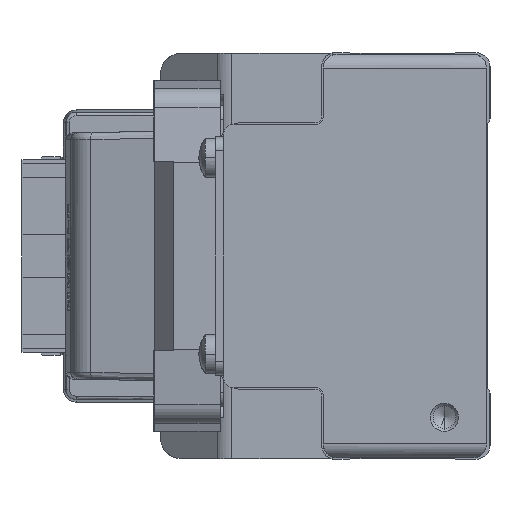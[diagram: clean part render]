
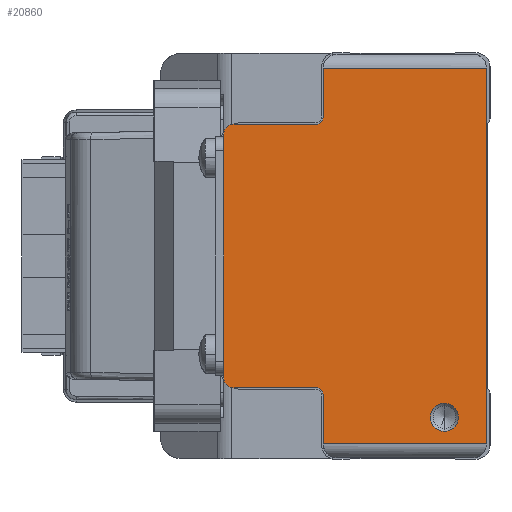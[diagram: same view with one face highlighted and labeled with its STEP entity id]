
A CAD part, left-side view. The second image highlights one B-rep face of the part: STEP entity #20860.
In plain terms, the highlighted planar face has unit normal (-1, 0, 0) as drawn and (0, 0, 1) by its records, which use the part's own axes.
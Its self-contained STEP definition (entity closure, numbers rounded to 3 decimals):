
#242 = VERTEX_POINT ( 'NONE', #5069 ) ;
#642 = EDGE_CURVE ( 'NONE', #13130, #12988, #30602, .T. ) ;
#892 = VERTEX_POINT ( 'NONE', #5077 ) ;
#1685 = DIRECTION ( 'NONE',  ( 0., 0., -1. ) ) ;
#1985 = EDGE_LOOP ( 'NONE', ( #23674, #10743, #21364, #22356, #5558, #32337, #20937, #28931, #14539, #26248, #36778, #41655 ) ) ;
#3001 = CARTESIAN_POINT ( 'NONE',  ( -21., 6.5, 470. ) ) ;
#4095 = VERTEX_POINT ( 'NONE', #27169 ) ;
#4887 = CARTESIAN_POINT ( 'NONE',  ( -17.3, 38., 470. ) ) ;
#5056 = CARTESIAN_POINT ( 'NONE',  ( -23., 6.5, 470. ) ) ;
#5069 = CARTESIAN_POINT ( 'NONE',  ( 26.8, 0.5, 470. ) ) ;
#5077 = CARTESIAN_POINT ( 'NONE',  ( -25., 6.5, 470. ) ) ;
#5104 = DIRECTION ( 'NONE',  ( 0., 0., 1. ) ) ;
#5558 = ORIENTED_EDGE ( 'NONE', *, *, #19044, .T. ) ;
#5664 = LINE ( 'NONE', #40193, #39914 ) ;
#6182 = EDGE_CURVE ( 'NONE', #17685, #19506, #16292, .T. ) ;
#6526 = EDGE_CURVE ( 'NONE', #19506, #43246, #32898, .T. ) ;
#6538 = VERTEX_POINT ( 'NONE', #23362 ) ;
#6577 = DIRECTION ( 'NONE',  ( 0., -1., 0. ) ) ;
#7229 = DIRECTION ( 'NONE',  ( 1., 0., 0. ) ) ;
#7243 = CIRCLE ( 'NONE', #41188, 1. ) ;
#8796 = DIRECTION ( 'NONE',  ( -1., 0., 0. ) ) ;
#8808 = CARTESIAN_POINT ( 'NONE',  ( -18.8, 36.5, 470. ) ) ;
#8852 = CARTESIAN_POINT ( 'NONE',  ( -17.3, 36.5, 470. ) ) ;
#8956 = ORIENTED_EDGE ( 'NONE', *, *, #21515, .T. ) ;
#9015 = LINE ( 'NONE', #31816, #15164 ) ;
#9201 = LINE ( 'NONE', #22892, #16369 ) ;
#10061 = LINE ( 'NONE', #23517, #20196 ) ;
#10243 = VECTOR ( 'NONE', #20958, 1000. ) ;
#10743 = ORIENTED_EDGE ( 'NONE', *, *, #41704, .F. ) ;
#10761 = CARTESIAN_POINT ( 'NONE',  ( -26.8, 0.5, 470. ) ) ;
#11408 = CARTESIAN_POINT ( 'NONE',  ( 18.8, 24.8, 470. ) ) ;
#11561 = CIRCLE ( 'NONE', #25193, 2. ) ;
#12395 = DIRECTION ( 'NONE',  ( 0., 0., 1. ) ) ;
#12626 = LINE ( 'NONE', #36501, #22148 ) ;
#12775 = DIRECTION ( 'NONE',  ( 0., -1., 0. ) ) ;
#12988 = VERTEX_POINT ( 'NONE', #29586 ) ;
#12997 = EDGE_CURVE ( 'NONE', #36882, #242, #9201, .T. ) ;
#13130 = VERTEX_POINT ( 'NONE', #11408 ) ;
#14434 = VECTOR ( 'NONE', #17755, 1000. ) ;
#14539 = ORIENTED_EDGE ( 'NONE', *, *, #642, .T. ) ;
#15164 = VECTOR ( 'NONE', #8796, 1000. ) ;
#15674 = CARTESIAN_POINT ( 'NONE',  ( -23., 6.5, 470. ) ) ;
#16166 = CIRCLE ( 'NONE', #20393, 1. ) ;
#16292 = CIRCLE ( 'NONE', #39609, 1.5 ) ;
#16369 = VECTOR ( 'NONE', #12775, 1000. ) ;
#16669 = DIRECTION ( 'NONE',  ( 0., 0., 1. ) ) ;
#17190 = DIRECTION ( 'NONE',  ( 0., 0., 1. ) ) ;
#17313 = CARTESIAN_POINT ( 'NONE',  ( -18.8, 24.8, 470. ) ) ;
#17685 = VERTEX_POINT ( 'NONE', #4887 ) ;
#17755 = DIRECTION ( 'NONE',  ( 0., 1., 0. ) ) ;
#18754 = EDGE_CURVE ( 'NONE', #4095, #23616, #9015, .T. ) ;
#18829 = DIRECTION ( 'NONE',  ( 1., 0., 0. ) ) ;
#18999 = EDGE_CURVE ( 'NONE', #12988, #6538, #22248, .T. ) ;
#19044 = EDGE_CURVE ( 'NONE', #43794, #242, #41553, .T. ) ;
#19479 = DIRECTION ( 'NONE',  ( 0., -1., 0. ) ) ;
#19506 = VERTEX_POINT ( 'NONE', #8808 ) ;
#20196 = VECTOR ( 'NONE', #43743, 1000. ) ;
#20393 = AXIS2_PLACEMENT_3D ( 'NONE', #37039, #22630, #36144 ) ;
#20575 = VECTOR ( 'NONE', #6577, 1000. ) ;
#20673 = CIRCLE ( 'NONE', #28454, 2. ) ;
#20860 = ADVANCED_FACE ( 'NONE', ( #36359, #39920 ), #33033, .T. ) ;
#20937 = ORIENTED_EDGE ( 'NONE', *, *, #33261, .T. ) ;
#20958 = DIRECTION ( 'NONE',  ( 1., 0., 0. ) ) ;
#21228 = CARTESIAN_POINT ( 'NONE',  ( 19.8, 23.8, 470. ) ) ;
#21344 = EDGE_CURVE ( 'NONE', #23616, #43794, #12626, .T. ) ;
#21364 = ORIENTED_EDGE ( 'NONE', *, *, #18754, .T. ) ;
#21406 = DIRECTION ( 'NONE',  ( 0., 0., -1. ) ) ;
#21515 = EDGE_CURVE ( 'NONE', #27591, #892, #11561, .T. ) ;
#22148 = VECTOR ( 'NONE', #19479, 1000. ) ;
#22248 = CIRCLE ( 'NONE', #39933, 1.5 ) ;
#22356 = ORIENTED_EDGE ( 'NONE', *, *, #21344, .T. ) ;
#22630 = DIRECTION ( 'NONE',  ( 0., 0., 1. ) ) ;
#22882 = CARTESIAN_POINT ( 'NONE',  ( -26.8, 0.5, 470. ) ) ;
#22892 = CARTESIAN_POINT ( 'NONE',  ( 26.8, 24., 470. ) ) ;
#23274 = CARTESIAN_POINT ( 'NONE',  ( -26.8, 21.8, 470. ) ) ;
#23362 = CARTESIAN_POINT ( 'NONE',  ( 17.3, 38., 470. ) ) ;
#23517 = CARTESIAN_POINT ( 'NONE',  ( 26.8, 23.8, 470. ) ) ;
#23616 = VERTEX_POINT ( 'NONE', #38612 ) ;
#23674 = ORIENTED_EDGE ( 'NONE', *, *, #6526, .T. ) ;
#25174 = EDGE_CURVE ( 'NONE', #892, #27591, #20673, .T. ) ;
#25193 = AXIS2_PLACEMENT_3D ( 'NONE', #5056, #1685, #31395 ) ;
#25723 = EDGE_CURVE ( 'NONE', #13130, #34495, #7243, .T. ) ;
#26248 = ORIENTED_EDGE ( 'NONE', *, *, #18999, .T. ) ;
#26828 = DIRECTION ( 'NONE',  ( 1., 0., 0. ) ) ;
#27169 = CARTESIAN_POINT ( 'NONE',  ( -19.8, 23.8, 470. ) ) ;
#27591 = VERTEX_POINT ( 'NONE', #3001 ) ;
#28454 = AXIS2_PLACEMENT_3D ( 'NONE', #15674, #21406, #41814 ) ;
#28931 = ORIENTED_EDGE ( 'NONE', *, *, #25723, .F. ) ;
#29586 = CARTESIAN_POINT ( 'NONE',  ( 18.8, 36.5, 470. ) ) ;
#30279 = CARTESIAN_POINT ( 'NONE',  ( -18.8, 36.5, 470. ) ) ;
#30602 = LINE ( 'NONE', #38120, #14434 ) ;
#30922 = CARTESIAN_POINT ( 'NONE',  ( 17.3, 36.5, 470. ) ) ;
#31395 = DIRECTION ( 'NONE',  ( -1., 0., 0. ) ) ;
#31816 = CARTESIAN_POINT ( 'NONE',  ( -19.8, 23.8, 470. ) ) ;
#32075 = DIRECTION ( 'NONE',  ( 1., 0., 0. ) ) ;
#32337 = ORIENTED_EDGE ( 'NONE', *, *, #12997, .F. ) ;
#32898 = LINE ( 'NONE', #30279, #20575 ) ;
#33033 = PLANE ( 'NONE',  #33706 ) ;
#33261 = EDGE_CURVE ( 'NONE', #36882, #34495, #10061, .T. ) ;
#33706 = AXIS2_PLACEMENT_3D ( 'NONE', #23274, #16669, #26828 ) ;
#34495 = VERTEX_POINT ( 'NONE', #21228 ) ;
#34580 = CARTESIAN_POINT ( 'NONE',  ( 19.8, 24.8, 470. ) ) ;
#36144 = DIRECTION ( 'NONE',  ( 1., 0., 0. ) ) ;
#36179 = DIRECTION ( 'NONE',  ( -1., 0., 0. ) ) ;
#36359 = FACE_BOUND ( 'NONE', #43677, .T. ) ;
#36501 = CARTESIAN_POINT ( 'NONE',  ( -26.8, 24., 470. ) ) ;
#36778 = ORIENTED_EDGE ( 'NONE', *, *, #39661, .T. ) ;
#36882 = VERTEX_POINT ( 'NONE', #40668 ) ;
#37039 = CARTESIAN_POINT ( 'NONE',  ( -19.8, 24.8, 470. ) ) ;
#38120 = CARTESIAN_POINT ( 'NONE',  ( 18.8, 24.8, 470. ) ) ;
#38612 = CARTESIAN_POINT ( 'NONE',  ( -26.8, 23.8, 470. ) ) ;
#38763 = ORIENTED_EDGE ( 'NONE', *, *, #25174, .T. ) ;
#39609 = AXIS2_PLACEMENT_3D ( 'NONE', #8852, #5104, #18829 ) ;
#39661 = EDGE_CURVE ( 'NONE', #6538, #17685, #5664, .T. ) ;
#39914 = VECTOR ( 'NONE', #36179, 1000. ) ;
#39920 = FACE_OUTER_BOUND ( 'NONE', #1985, .T. ) ;
#39933 = AXIS2_PLACEMENT_3D ( 'NONE', #30922, #17190, #7229 ) ;
#40193 = CARTESIAN_POINT ( 'NONE',  ( 17.3, 38., 470. ) ) ;
#40668 = CARTESIAN_POINT ( 'NONE',  ( 26.8, 23.8, 470. ) ) ;
#41188 = AXIS2_PLACEMENT_3D ( 'NONE', #34580, #12395, #32075 ) ;
#41553 = LINE ( 'NONE', #10761, #10243 ) ;
#41655 = ORIENTED_EDGE ( 'NONE', *, *, #6182, .T. ) ;
#41704 = EDGE_CURVE ( 'NONE', #4095, #43246, #16166, .T. ) ;
#41814 = DIRECTION ( 'NONE',  ( -1., 0., 0. ) ) ;
#43246 = VERTEX_POINT ( 'NONE', #17313 ) ;
#43677 = EDGE_LOOP ( 'NONE', ( #38763, #8956 ) ) ;
#43743 = DIRECTION ( 'NONE',  ( -1., 0., 0. ) ) ;
#43794 = VERTEX_POINT ( 'NONE', #22882 ) ;
